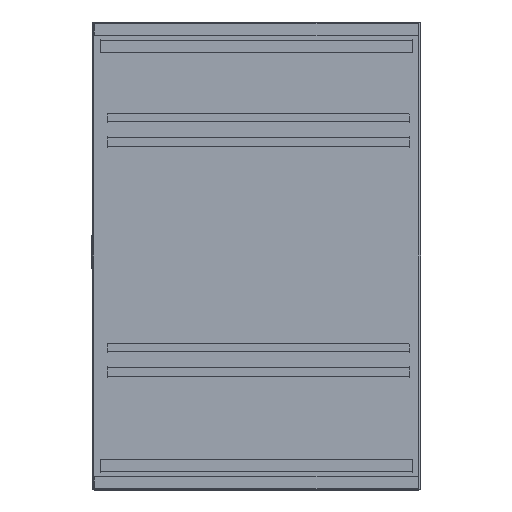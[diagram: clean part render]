
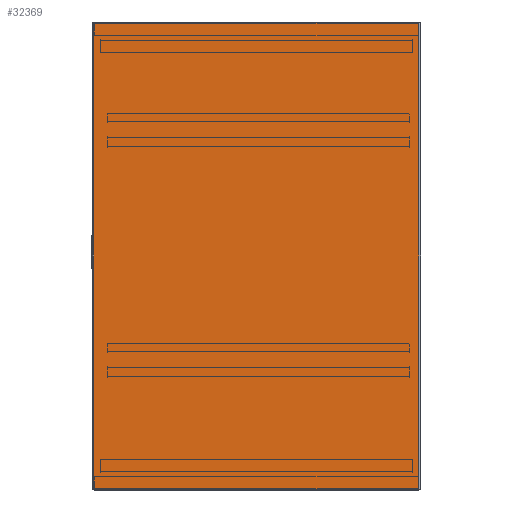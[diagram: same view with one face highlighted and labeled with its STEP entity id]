
A CAD part, left-side view. The second image highlights one B-rep face of the part: STEP entity #32369.
In plain terms, the highlighted planar face has unit normal (-1, 0, 0).
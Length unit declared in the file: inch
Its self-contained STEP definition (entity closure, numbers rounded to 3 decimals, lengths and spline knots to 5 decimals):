
#29776=DIRECTION('',(0.,1.,0.));
#29777=VECTOR('',#29776,35.5);
#29778=CARTESIAN_POINT('',(-0.06,-17.75,-12.371));
#29779=LINE('',#29778,#29777);
#29806=DIRECTION('',(0.,-1.,0.));
#29807=VECTOR('',#29806,35.5);
#29808=CARTESIAN_POINT('',(-0.06,17.75,12.371));
#29809=LINE('',#29808,#29807);
#30585=DIRECTION('',(0.,0.,-1.));
#30586=VECTOR('',#30585,24.742);
#30587=CARTESIAN_POINT('',(-0.06,17.75,12.371));
#30588=LINE('',#30587,#30586);
#30589=DIRECTION('',(0.,0.,1.));
#30590=VECTOR('',#30589,24.742);
#30591=CARTESIAN_POINT('',(-0.06,-17.75,-12.371));
#30592=LINE('',#30591,#30590);
#30805=CARTESIAN_POINT('',(-0.06,17.75,12.371));
#30806=CARTESIAN_POINT('',(-0.06,17.75,-12.371));
#30807=VERTEX_POINT('',#30805);
#30808=VERTEX_POINT('',#30806);
#30809=CARTESIAN_POINT('',(-0.06,-17.75,-12.371));
#30810=CARTESIAN_POINT('',(-0.06,-17.75,12.371));
#30811=VERTEX_POINT('',#30809);
#30812=VERTEX_POINT('',#30810);
#32358=CARTESIAN_POINT('',(-0.06,0.,0.));
#32359=DIRECTION('',(-1.,0.,0.));
#32360=DIRECTION('',(0.,0.,1.));
#32361=AXIS2_PLACEMENT_3D('',#32358,#32359,#32360);
#32362=PLANE('',#32361);
#32363=ORIENTED_EDGE('',*,*,#31258,.T.);
#32364=ORIENTED_EDGE('',*,*,#31286,.F.);
#32365=ORIENTED_EDGE('',*,*,#31316,.T.);
#32366=ORIENTED_EDGE('',*,*,#31872,.F.);
#32367=EDGE_LOOP('',(#32363,#32364,#32365,#32366));
#32368=FACE_OUTER_BOUND('',#32367,.F.);
#32369=ADVANCED_FACE('',(#32368),#32362,.T.);
#31258=EDGE_CURVE('',#30811,#30808,#29779,.T.);
#31286=EDGE_CURVE('',#30807,#30808,#30588,.T.);
#31316=EDGE_CURVE('',#30807,#30812,#29809,.T.);
#31872=EDGE_CURVE('',#30811,#30812,#30592,.T.);
